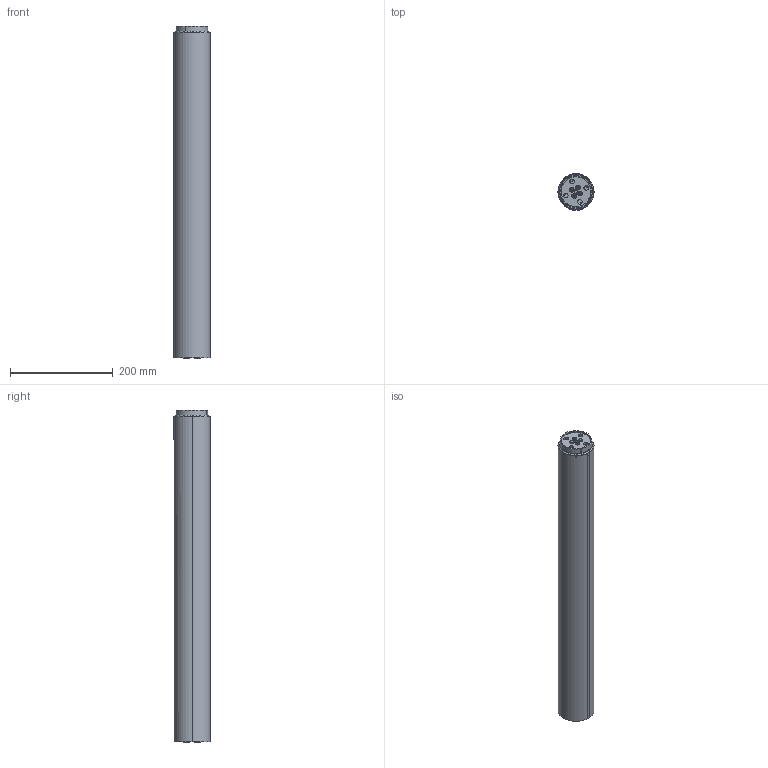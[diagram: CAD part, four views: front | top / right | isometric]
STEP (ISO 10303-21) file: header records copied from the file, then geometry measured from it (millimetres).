
FILE_DESCRIPTION (( 'STEP AP203' ), '1' );
FILE_NAME ('3D_TL39R.STEP', '2023-10-11T07:05:35', ( '' ), ( '' ), 'SwSTEP 2.0', 'SolidWorks 2015', '' );
FILE_SCHEMA (( 'CONFIG_CONTROL_DESIGN' ));
Length unit declared in the file: millimetre
Products named in the file (1): 3D_TL39R
Bounding box: 70 x 70 x 645.5 mm (x, y, z)
Volume: 559270.1 mm3; surface area: 550888.2 mm2
Topology: 11 solids, 11 shells, 1367 faces, 3644 edges, 2271 vertices
Faces by surface type: cylinder 525, plane 323, bspline 244, torus 126, cone 121, sphere 28
Entity records: 61081 total; most frequent: CARTESIAN_POINT 28883, ORIENTED_EDGE 7220, DIRECTION 6256, EDGE_CURVE 3610, AXIS2_PLACEMENT_3D 2510, VERTEX_POINT 2271, EDGE_LOOP 1457, CIRCLE 1386
